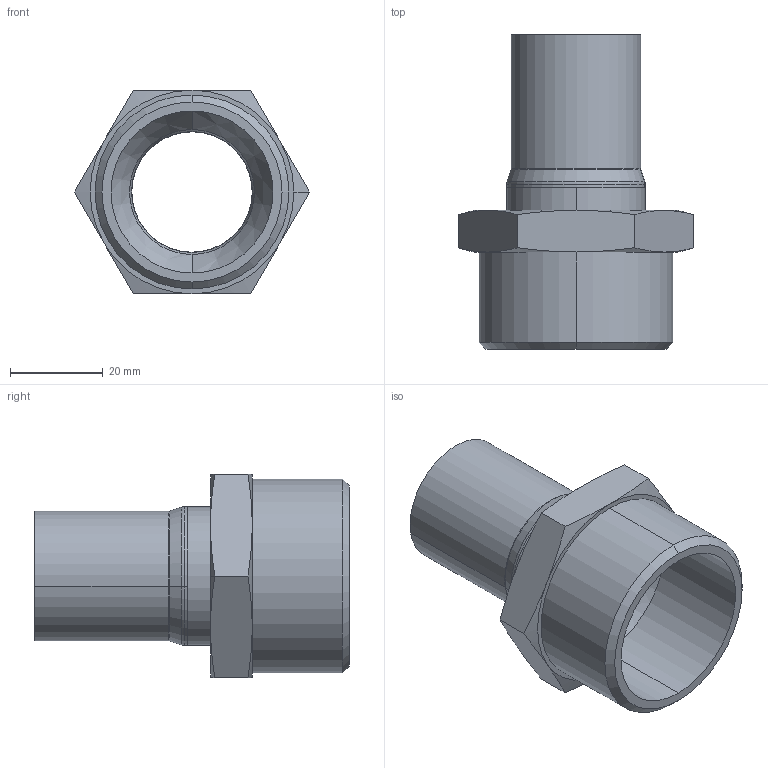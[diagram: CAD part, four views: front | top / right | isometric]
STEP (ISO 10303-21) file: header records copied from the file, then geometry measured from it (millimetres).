
FILE_DESCRIPTION (( 'STEP AP203' ), '1' );
FILE_NAME ('GDA6370.STEP', '2019-07-03T06:21:26', ( '' ), ( '' ), 'SwSTEP 2.0', 'SolidWorks 2015', '' );
FILE_SCHEMA (( 'CONFIG_CONTROL_DESIGN' ));
Length unit declared in the file: millimetre
Products named in the file (3): 孺諳眻奪28-30; ETC-¢ñ-03-28¡Á1?; GDA6370
Assembly tree (2 placements, depth 2):
  GDA6370
    ETC-¢ñ-03-28¡Á1?
    孺諳眻奪28-30
Bounding box: 50.81 x 68 x 44 mm (x, y, z)
Volume: 20276.1 mm3; surface area: 15768 mm2
Topology: 2 solids, 2 shells, 58 faces, 120 edges, 68 vertices
Faces by surface type: cone 22, cylinder 16, plane 12, torus 8
Entity records: 1905 total; most frequent: CARTESIAN_POINT 371, DIRECTION 286, ORIENTED_EDGE 240, AXIS2_PLACEMENT_3D 127, EDGE_CURVE 120, VERTEX_POINT 68, EDGE_LOOP 64, CIRCLE 64
